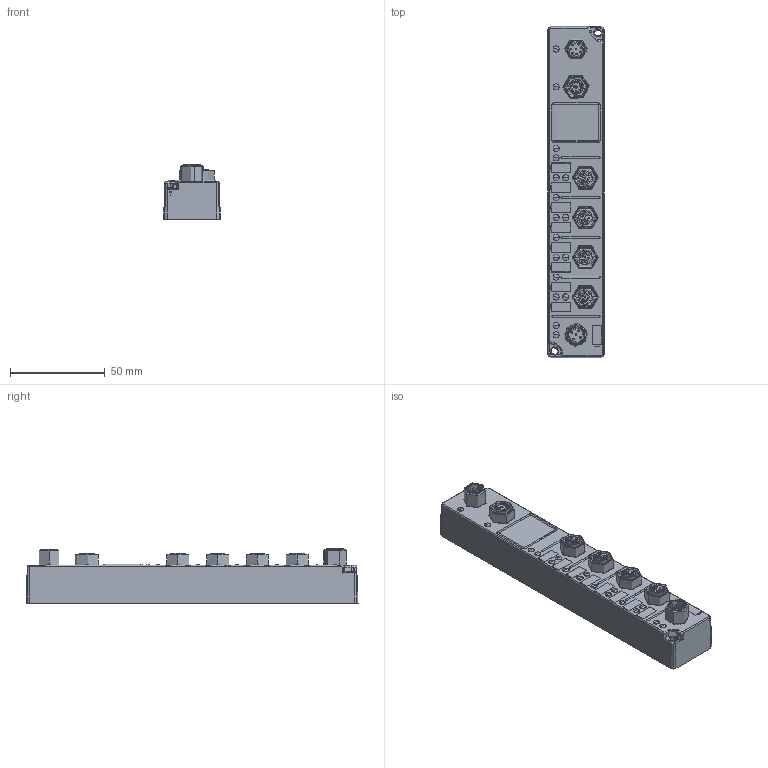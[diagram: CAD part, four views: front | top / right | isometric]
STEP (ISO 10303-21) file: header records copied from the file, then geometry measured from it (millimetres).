
FILE_DESCRIPTION (( 'STEP AP203' ), '1' );
FILE_NAME ('extern3D_14-108-086_PVDM086_20110406.STEP', '2011-04-06T11:51:27', ( 'Anwender' ), ( 'SIGMATEK GMBH & CO KG' ), 'SwSTEP 2.0', 'SolidWorks 2009', '' );
FILE_SCHEMA (( 'CONFIG_CONTROL_DESIGN' ));
Products named in the file (1): extern3D_14-108-086_PVDM086_20110406
Bounding box: 30 x 175.36 x 28.7 mm (x, y, z)
Topology: 60 solids, 65 shells, 8153 faces, 21476 edges, 13555 vertices
Faces by surface type: plane 5300, cylinder 1915, cone 446, bspline 346, torus 112, sphere 34
Full cylindrical faces by diameter (mm): 0.1 x2
Entity records: 262573 total; most frequent: CARTESIAN_POINT 60852, ORIENTED_EDGE 42898, DIRECTION 41245, EDGE_CURVE 21449, VECTOR 13957, LINE 13957, AXIS2_PLACEMENT_3D 13644, VERTEX_POINT 13547
